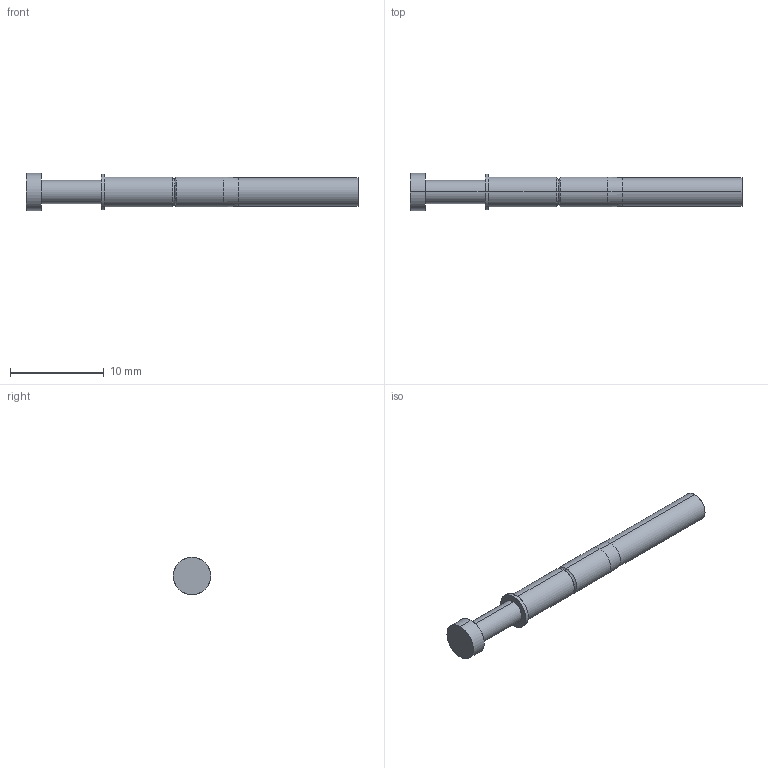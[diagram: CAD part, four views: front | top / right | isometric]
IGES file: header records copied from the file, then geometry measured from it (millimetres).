
Start section: SolidWorks IGES file using analytic representation for surfaces
Global section: file name: O:\PYLON\IGES FILES\P2550\P2550-8.IGS; native system: SolidWorks 2015; preprocessor: SolidWorks 2015; author: kgolden; date: 171020.104617; units: inch
Bounding box: 35.38 x 3.96 x 3.96 mm (x, y, z)
Surface area: 440.2 mm2 (no closed solid volume)
Topology: 0 solids, 0 shells, 29 faces, 440 edges, 438 vertices
Faces by surface type: revolution 16, bspline 13
